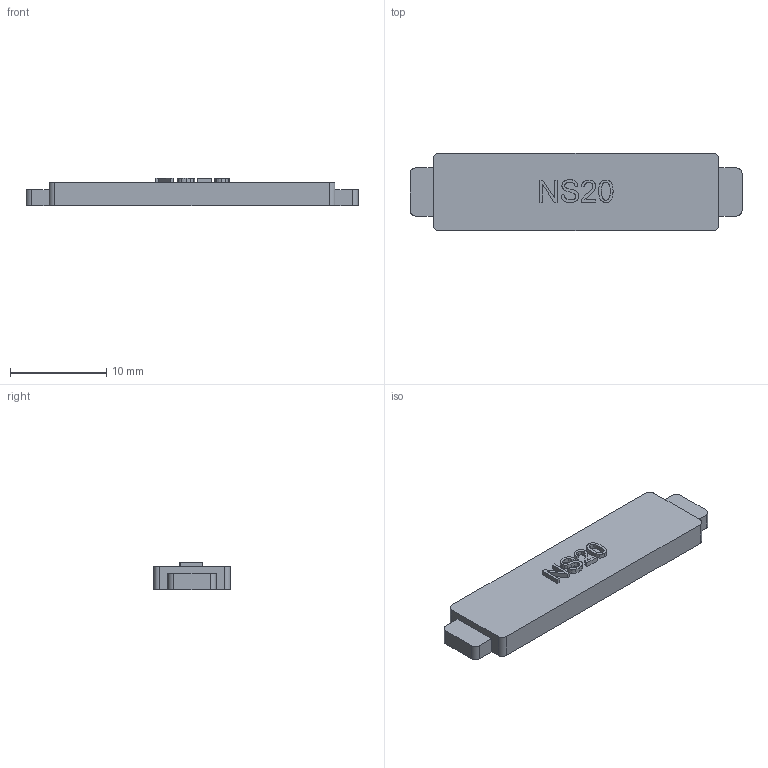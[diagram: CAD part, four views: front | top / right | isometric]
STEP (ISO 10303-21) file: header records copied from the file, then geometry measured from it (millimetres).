
FILE_DESCRIPTION(('Open CASCADE Model'),'2;1');
FILE_NAME('Open CASCADE Shape Model','1970-01-01T00:00:00',('Author'),( 'Open CASCADE'),'Open CASCADE STEP processor 7.8','Open CASCADE 7.8' ,'Unknown');
FILE_SCHEMA(('AUTOMOTIVE_DESIGN { 1 0 10303 214 1 1 1 1 }'));
Length unit declared in the file: millimetre
Products named in the file (2): Open CASCADE STEP translator 7.8 38; NS20K neck keeper bar
Assembly tree (1 placements, depth 2):
  Open CASCADE STEP translator 7.8 38
    NS20K neck keeper bar
Bounding box: 34.5 x 8 x 2.88 mm (x, y, z)
Volume: 612.4 mm3; surface area: 737.9 mm2
Topology: 1 solids, 1 shells, 114 faces, 321 edges, 214 vertices
Faces by surface type: extrusion 71, plane 35, cylinder 8
Entity records: 9066 total; most frequent: CARTESIAN_POINT 3338, DIRECTION 737, ORIENTED_EDGE 642, PCURVE 642, DEFINITIONAL_REPRESENTATION 642, VECTOR 603, LINE 532, B_SPLINE_CURVE_WITH_KNOTS 470
